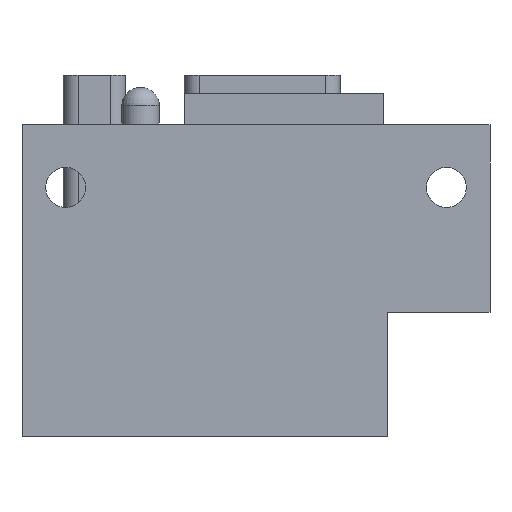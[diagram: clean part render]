
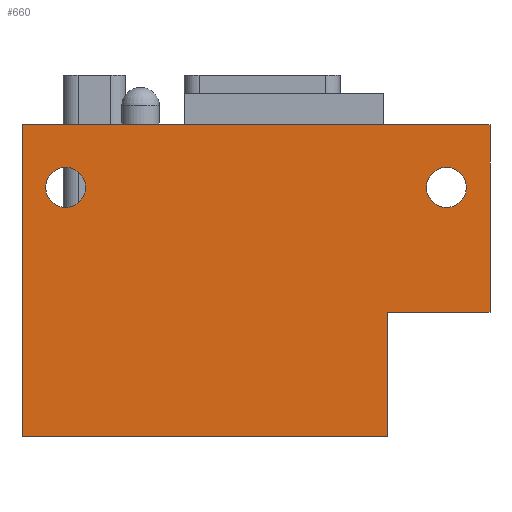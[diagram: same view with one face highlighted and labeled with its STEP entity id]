
A CAD part, front view. The second image highlights one B-rep face of the part: STEP entity #660.
In plain terms, the highlighted planar face has unit normal (0, -1, 0).
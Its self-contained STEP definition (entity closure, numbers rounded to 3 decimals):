
#51 = CARTESIAN_POINT ( 'NONE',  ( 3.5, 0., -3.4 ) ) ;
#112 = VERTEX_POINT ( 'NONE', #2291 ) ;
#113 = VERTEX_POINT ( 'NONE', #2293 ) ;
#114 = VERTEX_POINT ( 'NONE', #2288 ) ;
#123 = VERTEX_POINT ( 'NONE', #2347 ) ;
#132 = VERTEX_POINT ( 'NONE', #2321 ) ;
#139 = VERTEX_POINT ( 'NONE', #2325 ) ;
#152 = VERTEX_POINT ( 'NONE', #2303 ) ;
#175 = VERTEX_POINT ( 'NONE', #2232 ) ;
#176 = VERTEX_POINT ( 'NONE', #2377 ) ;
#660 = ADVANCED_FACE ( 'NONE', ( #2580, #2581, #2582 ), #1891, .F. ) ;
#709 = CARTESIAN_POINT ( 'NONE',  ( 34., 0., -5. ) ) ;
#711 = DIRECTION ( 'NONE',  ( 0., 1., 0. ) ) ;
#712 = DIRECTION ( 'NONE',  ( 0., 0., 1. ) ) ;
#753 = CARTESIAN_POINT ( 'NONE',  ( 3.5, 0., -5. ) ) ;
#780 = DIRECTION ( 'NONE',  ( 0., 0., -1. ) ) ;
#783 = CARTESIAN_POINT ( 'NONE',  ( 0., 0., -25. ) ) ;
#784 = DIRECTION ( 'NONE',  ( -1., 0., 0. ) ) ;
#785 = CARTESIAN_POINT ( 'NONE',  ( 29.25, 0., -25. ) ) ;
#786 = DIRECTION ( 'NONE',  ( 0., 0., -1. ) ) ;
#794 = DIRECTION ( 'NONE',  ( 0., 0., 1. ) ) ;
#806 = CARTESIAN_POINT ( 'NONE',  ( 37.5, 0., -15. ) ) ;
#821 = CARTESIAN_POINT ( 'NONE',  ( 0., 0., -25. ) ) ;
#824 = CARTESIAN_POINT ( 'NONE',  ( 3.5, 0., -5. ) ) ;
#826 = DIRECTION ( 'NONE',  ( 0., 0., 1. ) ) ;
#828 = DIRECTION ( 'NONE',  ( 0., 0., 1. ) ) ;
#830 = DIRECTION ( 'NONE',  ( 0., 1., 0. ) ) ;
#832 = DIRECTION ( 'NONE',  ( 0., 0., 1. ) ) ;
#834 = DIRECTION ( 'NONE',  ( 0., 1., 0. ) ) ;
#838 = DIRECTION ( 'NONE',  ( 0., 1., 0. ) ) ;
#839 = CARTESIAN_POINT ( 'NONE',  ( 34., 0., -5. ) ) ;
#842 = ORIENTED_EDGE ( 'NONE', *, *, #1313, .F. ) ;
#843 = ORIENTED_EDGE ( 'NONE', *, *, #1470, .F. ) ;
#844 = ORIENTED_EDGE ( 'NONE', *, *, #1535, .F. ) ;
#846 = ORIENTED_EDGE ( 'NONE', *, *, #1484, .F. ) ;
#849 = ORIENTED_EDGE ( 'NONE', *, *, #1487, .F. ) ;
#852 = ORIENTED_EDGE ( 'NONE', *, *, #1388, .T. ) ;
#854 = ORIENTED_EDGE ( 'NONE', *, *, #1477, .F. ) ;
#855 = ORIENTED_EDGE ( 'NONE', *, *, #1468, .T. ) ;
#857 = ORIENTED_EDGE ( 'NONE', *, *, #1455, .T. ) ;
#865 = ORIENTED_EDGE ( 'NONE', *, *, #1329, .T. ) ;
#917 = EDGE_LOOP ( 'NONE', ( #865, #857 ) ) ;
#929 = EDGE_LOOP ( 'NONE', ( #852, #855 ) ) ;
#948 = EDGE_LOOP ( 'NONE', ( #843, #842, #854, #849, #846, #844 ) ) ;
#1313 = EDGE_CURVE ( 'NONE', #176, #139, #2779, .T. ) ;
#1329 = EDGE_CURVE ( 'NONE', #152, #2290, #2812, .T. ) ;
#1374 = AXIS2_PLACEMENT_3D ( 'NONE', #839, #830, #832 ) ;
#1375 = AXIS2_PLACEMENT_3D ( 'NONE', #824, #834, #826 ) ;
#1380 = AXIS2_PLACEMENT_3D ( 'NONE', #709, #711, #712 ) ;
#1388 = EDGE_CURVE ( 'NONE', #175, #123, #2855, .T. ) ;
#1402 = AXIS2_PLACEMENT_3D ( 'NONE', #753, #838, #794 ) ;
#1455 = EDGE_CURVE ( 'NONE', #2290, #152, #2889, .T. ) ;
#1468 = EDGE_CURVE ( 'NONE', #123, #175, #2892, .T. ) ;
#1470 = EDGE_CURVE ( 'NONE', #139, #132, #2891, .T. ) ;
#1477 = EDGE_CURVE ( 'NONE', #114, #176, #2894, .T. ) ;
#1484 = EDGE_CURVE ( 'NONE', #113, #112, #2900, .T. ) ;
#1487 = EDGE_CURVE ( 'NONE', #112, #114, #2902, .T. ) ;
#1505 = AXIS2_PLACEMENT_3D ( 'NONE', #2093, #1908, #2085 ) ;
#1535 = EDGE_CURVE ( 'NONE', #132, #113, #2929, .T. ) ;
#1840 = DIRECTION ( 'NONE',  ( -1., 0., 0. ) ) ;
#1842 = CARTESIAN_POINT ( 'NONE',  ( 29.25, 0., -15. ) ) ;
#1891 = PLANE ( 'NONE',  #1505 ) ;
#1908 = DIRECTION ( 'NONE',  ( 0., 1., 0. ) ) ;
#1950 = CARTESIAN_POINT ( 'NONE',  ( 0., 0., 0. ) ) ;
#1991 = DIRECTION ( 'NONE',  ( 1., 0., 0. ) ) ;
#2085 = DIRECTION ( 'NONE',  ( 0., 0., 1. ) ) ;
#2093 = CARTESIAN_POINT ( 'NONE',  ( 37.5, 0., 0. ) ) ;
#2232 = CARTESIAN_POINT ( 'NONE',  ( 34., 0., -6.6 ) ) ;
#2288 = CARTESIAN_POINT ( 'NONE',  ( 0., 0., -25. ) ) ;
#2290 = VERTEX_POINT ( 'NONE', #51 ) ;
#2291 = CARTESIAN_POINT ( 'NONE',  ( 29.25, 0., -25. ) ) ;
#2293 = CARTESIAN_POINT ( 'NONE',  ( 29.25, 0., -15. ) ) ;
#2303 = CARTESIAN_POINT ( 'NONE',  ( 3.5, 0., -6.6 ) ) ;
#2321 = CARTESIAN_POINT ( 'NONE',  ( 37.5, 0., -15. ) ) ;
#2325 = CARTESIAN_POINT ( 'NONE',  ( 37.5, 0., 0. ) ) ;
#2347 = CARTESIAN_POINT ( 'NONE',  ( 34., 0., -3.4 ) ) ;
#2377 = CARTESIAN_POINT ( 'NONE',  ( 0., 0., 0. ) ) ;
#2580 = FACE_BOUND ( 'NONE', #917, .T. ) ;
#2581 = FACE_OUTER_BOUND ( 'NONE', #948, .T. ) ;
#2582 = FACE_BOUND ( 'NONE', #929, .T. ) ;
#2779 = LINE ( 'NONE', #1950, #2781 ) ;
#2781 = VECTOR ( 'NONE', #1991, 1000. ) ;
#2812 = CIRCLE ( 'NONE', #1402, 1.6 ) ;
#2855 = CIRCLE ( 'NONE', #1380, 1.6 ) ;
#2889 = CIRCLE ( 'NONE', #1375, 1.6 ) ;
#2891 = LINE ( 'NONE', #806, #2893 ) ;
#2892 = CIRCLE ( 'NONE', #1374, 1.6 ) ;
#2893 = VECTOR ( 'NONE', #780, 1000. ) ;
#2894 = LINE ( 'NONE', #821, #2895 ) ;
#2895 = VECTOR ( 'NONE', #828, 1000. ) ;
#2900 = LINE ( 'NONE', #785, #2901 ) ;
#2901 = VECTOR ( 'NONE', #786, 1000. ) ;
#2902 = LINE ( 'NONE', #783, #2903 ) ;
#2903 = VECTOR ( 'NONE', #784, 1000. ) ;
#2929 = LINE ( 'NONE', #1842, #2930 ) ;
#2930 = VECTOR ( 'NONE', #1840, 1000. ) ;
